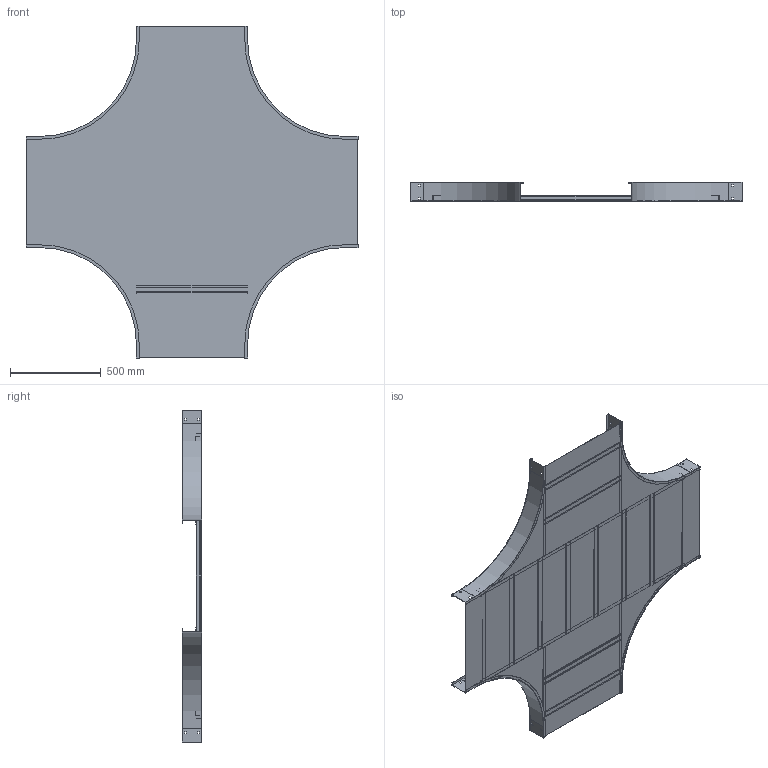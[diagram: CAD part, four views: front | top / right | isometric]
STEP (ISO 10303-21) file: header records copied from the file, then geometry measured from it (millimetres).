
FILE_DESCRIPTION((''),'2;1');
FILE_NAME('AUF424SHX24_ASM','2010-02-01T',('erouzier'),(''),'PRO/ENGINEER BY PARAMETRIC TECHNOLOGY CORPORATION, 2008510','PRO/ENGINEER BY PARAMETRIC TECHNOLOGY CORPORATION, 2008510','');
FILE_SCHEMA(('CONFIG_CONTROL_DESIGN'));
Length unit declared in the file: inch
Products named in the file (18): CDS001319-4-90-21-I; CDS002159L24_AF8; CDS002159L24_AF9; CDS002159L24_AF10; CDS002159L24_AF11; CDS002159L24_AF12; CDS002159L24_AF13; CDS002159L24_AF14; CDS002159L24_AF15; CDS000495_GEN_AF18; CDS000495_GEN_AF19; CDS000495_GEN_AF22; CDS000495_GEN_AF23; CDS000495_GEN_AF20; CDS000495_GEN_AF21; CDS002159L24; CDS005016-24-24-24; AUF424SHX24_ASM
Assembly tree (23 placements, depth 2):
  AUF424SHX24_ASM
    CDS001319-4-90-21-I  x4
    CDS002159L24_AF8
    CDS002159L24_AF9
    CDS002159L24_AF10
    CDS002159L24_AF11
    CDS002159L24_AF12
    CDS002159L24_AF13
    CDS002159L24_AF14
    CDS002159L24_AF15
    CDS000495_GEN_AF18
    CDS000495_GEN_AF19
    CDS000495_GEN_AF22
    CDS000495_GEN_AF23
    CDS000495_GEN_AF20
    CDS000495_GEN_AF21
    CDS002159L24  x4
    CDS005016-24-24-24
Bounding box: 1833.37 x 106.05 x 1833.37 mm (x, y, z)
Volume: 5188870.7 mm3; surface area: 7689535.8 mm2
Topology: 23 solids, 23 shells, 574 faces, 1584 edges, 1056 vertices
Faces by surface type: plane 422, cylinder 152
Entity records: 12537 total; most frequent: CARTESIAN_POINT 2163, DIRECTION 2104, ORIENTED_EDGE 2088, EDGE_CURVE 1044, VECTOR 830, LINE 830, VERTEX_POINT 696, AXIS2_PLACEMENT_3D 637
